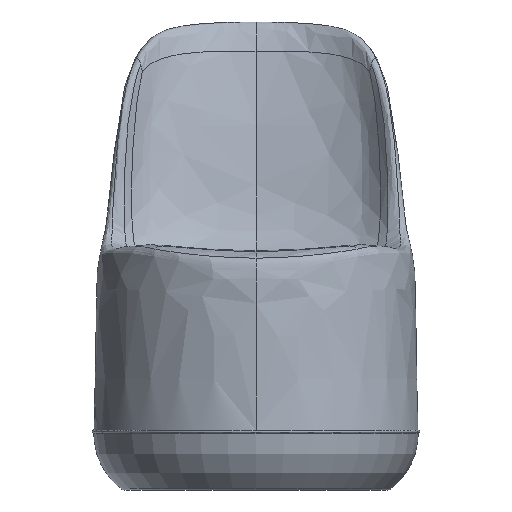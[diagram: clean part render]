
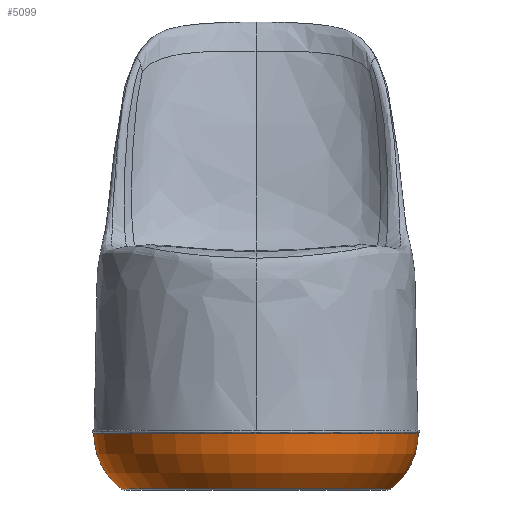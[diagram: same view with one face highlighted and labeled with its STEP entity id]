
A CAD part, front view. The second image highlights one B-rep face of the part: STEP entity #5099.
In plain terms, the highlighted toroidal (fillet/blend) face has major radius 170 mm and minor radius 130 mm.
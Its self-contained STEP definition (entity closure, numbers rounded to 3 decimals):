
#97 = AXIS2_PLACEMENT_3D ( 'NONE', #2640, #3247, #5265 ) ;
#176 = EDGE_CURVE ( 'NONE', #217, #2181, #4586, .T. ) ;
#211 = AXIS2_PLACEMENT_3D ( 'NONE', #3485, #4044, #2558 ) ;
#217 = VERTEX_POINT ( 'NONE', #6299 ) ;
#849 = CARTESIAN_POINT ( 'NONE',  ( 0., 0., 130. ) ) ;
#909 = CARTESIAN_POINT ( 'NONE',  ( 249.424, 0., 27.083 ) ) ;
#1046 = AXIS2_PLACEMENT_3D ( 'NONE', #4654, #3023, #1604 ) ;
#1241 = EDGE_LOOP ( 'NONE', ( #4100, #4914, #4950, #2742 ) ) ;
#1307 = DIRECTION ( 'NONE',  ( 0., 0., 1. ) ) ;
#1604 = DIRECTION ( 'NONE',  ( -1., 0., 0. ) ) ;
#1689 = CARTESIAN_POINT ( 'NONE',  ( 0., 0., 130. ) ) ;
#2181 = VERTEX_POINT ( 'NONE', #3644 ) ;
#2558 = DIRECTION ( 'NONE',  ( 0., 0., -1. ) ) ;
#2640 = CARTESIAN_POINT ( 'NONE',  ( 0., 0., 27.083 ) ) ;
#2742 = ORIENTED_EDGE ( 'NONE', *, *, #176, .T. ) ;
#3023 = DIRECTION ( 'NONE',  ( 0., 1., 0. ) ) ;
#3247 = DIRECTION ( 'NONE',  ( 0., 0., -1. ) ) ;
#3251 = DIRECTION ( 'NONE',  ( 0., 0., -1. ) ) ;
#3485 = CARTESIAN_POINT ( 'NONE',  ( 170., 0., 130. ) ) ;
#3612 = AXIS2_PLACEMENT_3D ( 'NONE', #849, #1307, #5979 ) ;
#3644 = CARTESIAN_POINT ( 'NONE',  ( -300., 0., 130. ) ) ;
#3700 = VERTEX_POINT ( 'NONE', #5174 ) ;
#4044 = DIRECTION ( 'NONE',  ( 0., -1., 0. ) ) ;
#4100 = ORIENTED_EDGE ( 'NONE', *, *, #5304, .F. ) ;
#4263 = AXIS2_PLACEMENT_3D ( 'NONE', #1689, #3251, #5268 ) ;
#4577 = CIRCLE ( 'NONE', #97, 249.424 ) ;
#4586 = CIRCLE ( 'NONE', #4263, 300. ) ;
#4654 = CARTESIAN_POINT ( 'NONE',  ( -170., 0., 130. ) ) ;
#4679 = CIRCLE ( 'NONE', #1046, 130. ) ;
#4780 = EDGE_CURVE ( 'NONE', #6176, #3700, #4577, .T. ) ;
#4914 = ORIENTED_EDGE ( 'NONE', *, *, #4780, .F. ) ;
#4950 = ORIENTED_EDGE ( 'NONE', *, *, #5793, .T. ) ;
#5099 = ADVANCED_FACE ( 'NONE', ( #6542 ), #6164, .T. ) ;
#5174 = CARTESIAN_POINT ( 'NONE',  ( -249.424, 0., 27.083 ) ) ;
#5265 = DIRECTION ( 'NONE',  ( 1., 0., 0. ) ) ;
#5268 = DIRECTION ( 'NONE',  ( 1., 0., 0. ) ) ;
#5304 = EDGE_CURVE ( 'NONE', #3700, #2181, #4679, .T. ) ;
#5793 = EDGE_CURVE ( 'NONE', #6176, #217, #6371, .T. ) ;
#5979 = DIRECTION ( 'NONE',  ( 1., 0., 0. ) ) ;
#6164 = TOROIDAL_SURFACE ( 'NONE', #3612, 170., 130. ) ;
#6176 = VERTEX_POINT ( 'NONE', #909 ) ;
#6299 = CARTESIAN_POINT ( 'NONE',  ( 300., 0., 130. ) ) ;
#6371 = CIRCLE ( 'NONE', #211, 130. ) ;
#6542 = FACE_OUTER_BOUND ( 'NONE', #1241, .T. ) ;
